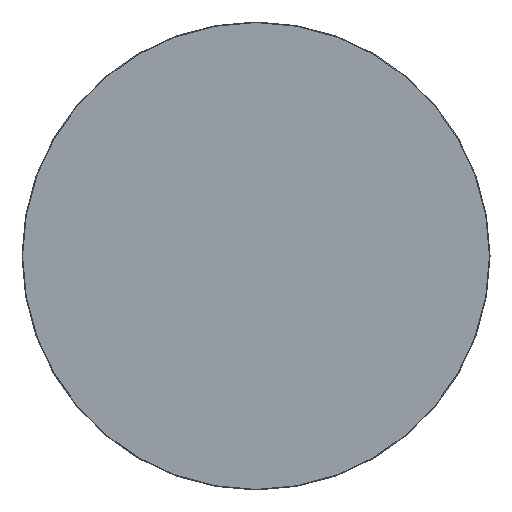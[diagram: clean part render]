
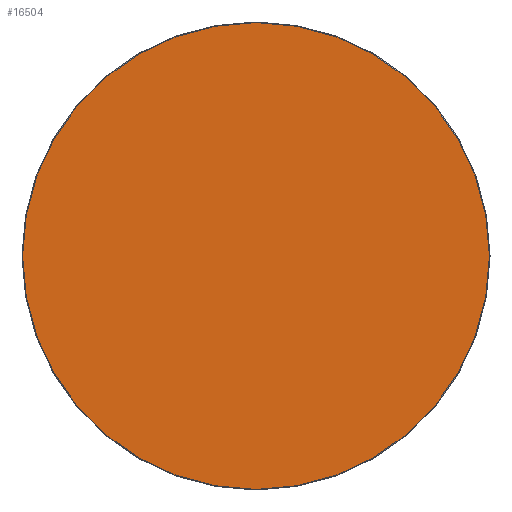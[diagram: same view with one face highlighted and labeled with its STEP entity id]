
A CAD part, top view. The second image highlights one B-rep face of the part: STEP entity #16504.
In plain terms, the highlighted planar face has unit normal (0, 0, 1).
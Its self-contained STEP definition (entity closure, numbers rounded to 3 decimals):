
#16429=CARTESIAN_POINT('',(0.,0.,20.));
#16430=DIRECTION('',(1.,0.,0.));
#16431=DIRECTION('',(0.,0.,1.));
#16432=AXIS2_PLACEMENT_3D('',#16429,#16431,#16430);
#16433=PLANE('',#16432);
#16434=CARTESIAN_POINT('',(-0.5,-548.5,20.));
#16435=VERTEX_POINT('',#16434);
#16436=CARTESIAN_POINT('',(0.5,-548.5,20.));
#16437=VERTEX_POINT('',#16436);
#16438=CARTESIAN_POINT('',(-0.5,-548.5,20.));
#16439=DIRECTION('',(1.,0.,0.));
#16440=VECTOR('',#16439,1.);
#16441=LINE('',#16438,#16440);
#16442=EDGE_CURVE('',#16435,#16437,#16441,.T.);
#16443=ORIENTED_EDGE('E105',*,*,#16442,.T.);
#16444=CARTESIAN_POINT('',(548.5,-0.5,20.));
#16445=VERTEX_POINT('',#16444);
#16446=CARTESIAN_POINT('',(0.5,-0.5,20.));
#16447=DIRECTION('',(0.,-1.,0.));
#16448=DIRECTION('',(0.,0.,1.));
#16449=AXIS2_PLACEMENT_3D('',#16446,#16448,#16447);
#16450=CIRCLE('',#16449,548.);
#16451=EDGE_CURVE('',#16437,#16445,#16450,.T.);
#16452=ORIENTED_EDGE('E107',*,*,#16451,.T.);
#16453=CARTESIAN_POINT('',(548.5,0.5,20.));
#16454=VERTEX_POINT('',#16453);
#16455=CARTESIAN_POINT('',(548.5,-0.5,20.));
#16456=DIRECTION('',(0.,1.,0.));
#16457=VECTOR('',#16456,1.);
#16458=LINE('',#16455,#16457);
#16459=EDGE_CURVE('',#16445,#16454,#16458,.T.);
#16460=ORIENTED_EDGE('E109',*,*,#16459,.T.);
#16461=CARTESIAN_POINT('',(0.5,548.5,20.));
#16462=VERTEX_POINT('',#16461);
#16463=CARTESIAN_POINT('',(0.5,0.5,20.));
#16464=DIRECTION('',(1.,0.,0.));
#16465=DIRECTION('',(0.,0.,1.));
#16466=AXIS2_PLACEMENT_3D('',#16463,#16465,#16464);
#16467=CIRCLE('',#16466,548.);
#16468=EDGE_CURVE('',#16454,#16462,#16467,.T.);
#16469=ORIENTED_EDGE('E111',*,*,#16468,.T.);
#16470=CARTESIAN_POINT('',(-0.5,548.5,20.));
#16471=VERTEX_POINT('',#16470);
#16472=CARTESIAN_POINT('',(0.5,548.5,20.));
#16473=DIRECTION('',(-1.,0.,0.));
#16474=VECTOR('',#16473,1.);
#16475=LINE('',#16472,#16474);
#16476=EDGE_CURVE('',#16462,#16471,#16475,.T.);
#16477=ORIENTED_EDGE('E113',*,*,#16476,.T.);
#16478=CARTESIAN_POINT('',(-548.5,0.5,20.));
#16479=VERTEX_POINT('',#16478);
#16480=CARTESIAN_POINT('',(-0.5,0.5,20.));
#16481=DIRECTION('',(0.,1.,0.));
#16482=DIRECTION('',(0.,0.,1.));
#16483=AXIS2_PLACEMENT_3D('',#16480,#16482,#16481);
#16484=CIRCLE('',#16483,548.);
#16485=EDGE_CURVE('',#16471,#16479,#16484,.T.);
#16486=ORIENTED_EDGE('E115',*,*,#16485,.T.);
#16487=CARTESIAN_POINT('',(-548.5,-0.5,20.));
#16488=VERTEX_POINT('',#16487);
#16489=CARTESIAN_POINT('',(-548.5,0.5,20.));
#16490=DIRECTION('',(0.,-1.,0.));
#16491=VECTOR('',#16490,1.);
#16492=LINE('',#16489,#16491);
#16493=EDGE_CURVE('',#16479,#16488,#16492,.T.);
#16494=ORIENTED_EDGE('E117',*,*,#16493,.T.);
#16495=CARTESIAN_POINT('',(-0.5,-0.5,20.));
#16496=DIRECTION('',(-1.,0.,0.));
#16497=DIRECTION('',(0.,0.,1.));
#16498=AXIS2_PLACEMENT_3D('',#16495,#16497,#16496);
#16499=CIRCLE('',#16498,548.);
#16500=EDGE_CURVE('',#16488,#16435,#16499,.T.);
#16501=ORIENTED_EDGE('E119',*,*,#16500,.T.);
#16502=EDGE_LOOP('',(#16443,#16452,#16460,#16469,#16477,#16486,#16494,#16501));
#16503=FACE_OUTER_BOUND('',#16502,.T.);
#16504=ADVANCED_FACE('F2',(#16503),#16433,.T.);
